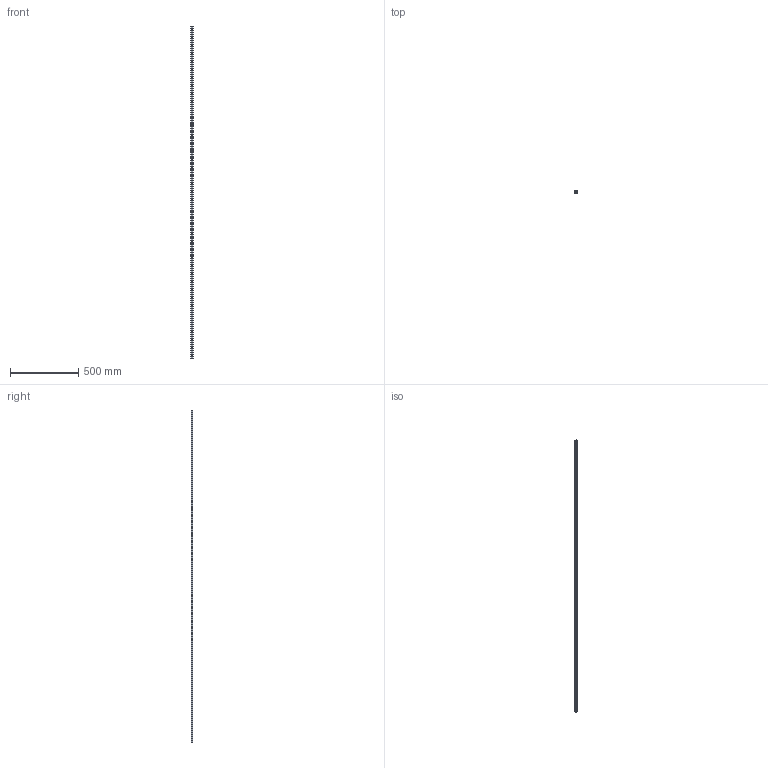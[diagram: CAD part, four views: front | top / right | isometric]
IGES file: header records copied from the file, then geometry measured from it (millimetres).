
Start section: SolidWorks IGES file using analytic representation for surfaces
Global section: file name: C:\Users\IanO\Desktop\L1016_v2\L1016.BL15_v2\L1016.BL15_v2_20190611_IGES\L1016.BL15-2440.igs; native system: SolidWorks 2017; preprocessor: SolidWorks 2017; author: IanO; date: 190612.123219; units: millimetre
Bounding box: 15 x 13 x 2440 mm (x, y, z)
Surface area: 149093.5 mm2 (no closed solid volume)
Topology: 0 solids, 0 shells, 231 faces, 6056 edges, 6056 vertices
Faces by surface type: revolution 168, bspline 63
